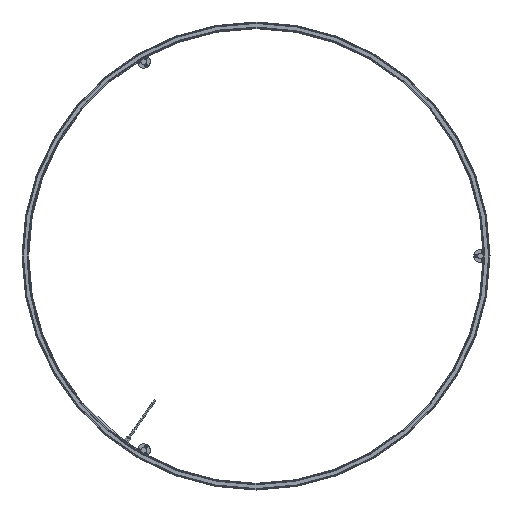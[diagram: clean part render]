
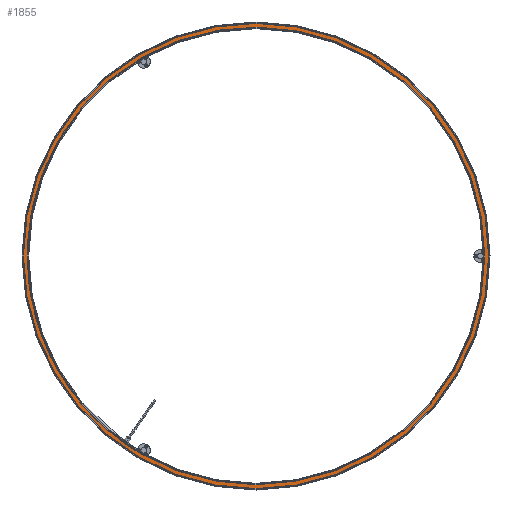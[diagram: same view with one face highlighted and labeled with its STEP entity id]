
A CAD part, front view. The second image highlights one B-rep face of the part: STEP entity #1855.
In plain terms, the highlighted planar face has unit normal (0, -1, 0) as drawn and (0, 1, 0) by its records, which use the part's own axes.
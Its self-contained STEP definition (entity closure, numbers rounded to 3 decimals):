
#502 = CARTESIAN_POINT ( 'NONE',  ( 0., -6.5, -795.6 ) ) ;
#1855 = ADVANCED_FACE ( 'NONE', ( #8960, #4046 ), #10092, .F. ) ;
#1957 = EDGE_CURVE ( 'NONE', #13708, #10837, #10485, .T. ) ;
#2489 = ORIENTED_EDGE ( 'NONE', *, *, #2740, .T. ) ;
#2700 = CARTESIAN_POINT ( 'NONE',  ( -781.4, -6.5, 0. ) ) ;
#2740 = EDGE_CURVE ( 'NONE', #10837, #13708, #2799, .T. ) ;
#2799 = CIRCLE ( 'NONE', #5606, 781.4 ) ;
#3209 = EDGE_CURVE ( 'NONE', #8154, #10682, #9217, .T. ) ;
#3499 = ORIENTED_EDGE ( 'NONE', *, *, #11401, .F. ) ;
#3530 = DIRECTION ( 'NONE',  ( 0., 0., -1. ) ) ;
#3848 = CARTESIAN_POINT ( 'NONE',  ( 0., -6.5, 0. ) ) ;
#4046 = FACE_BOUND ( 'NONE', #9135, .T. ) ;
#4801 = DIRECTION ( 'NONE',  ( 0., 0., -1. ) ) ;
#5371 = AXIS2_PLACEMENT_3D ( 'NONE', #3848, #10933, #4801 ) ;
#5606 = AXIS2_PLACEMENT_3D ( 'NONE', #13301, #15796, #3530 ) ;
#5866 = AXIS2_PLACEMENT_3D ( 'NONE', #13393, #8598, #13552 ) ;
#6141 = DIRECTION ( 'NONE',  ( 0., 0., -1. ) ) ;
#6364 = AXIS2_PLACEMENT_3D ( 'NONE', #2700, #13914, #6141 ) ;
#6427 = ORIENTED_EDGE ( 'NONE', *, *, #3209, .F. ) ;
#7104 = CARTESIAN_POINT ( 'NONE',  ( 0., -6.5, 0. ) ) ;
#8154 = VERTEX_POINT ( 'NONE', #502 ) ;
#8598 = DIRECTION ( 'NONE',  ( 0., -1., 0. ) ) ;
#8960 = FACE_OUTER_BOUND ( 'NONE', #10815, .T. ) ;
#9135 = EDGE_LOOP ( 'NONE', ( #10043, #2489 ) ) ;
#9217 = CIRCLE ( 'NONE', #5866, 795.6 ) ;
#10043 = ORIENTED_EDGE ( 'NONE', *, *, #1957, .T. ) ;
#10092 = PLANE ( 'NONE',  #6364 ) ;
#10485 = CIRCLE ( 'NONE', #11543, 781.4 ) ;
#10682 = VERTEX_POINT ( 'NONE', #11684 ) ;
#10815 = EDGE_LOOP ( 'NONE', ( #6427, #3499 ) ) ;
#10837 = VERTEX_POINT ( 'NONE', #14192 ) ;
#10933 = DIRECTION ( 'NONE',  ( 0., -1., 0. ) ) ;
#10976 = CARTESIAN_POINT ( 'NONE',  ( 0., -6.5, -781.4 ) ) ;
#11401 = EDGE_CURVE ( 'NONE', #10682, #8154, #12872, .T. ) ;
#11543 = AXIS2_PLACEMENT_3D ( 'NONE', #7104, #14310, #15843 ) ;
#11684 = CARTESIAN_POINT ( 'NONE',  ( 0., -6.5, 795.6 ) ) ;
#12872 = CIRCLE ( 'NONE', #5371, 795.6 ) ;
#13301 = CARTESIAN_POINT ( 'NONE',  ( 0., -6.5, 0. ) ) ;
#13393 = CARTESIAN_POINT ( 'NONE',  ( 0., -6.5, 0. ) ) ;
#13552 = DIRECTION ( 'NONE',  ( 0., 0., -1. ) ) ;
#13708 = VERTEX_POINT ( 'NONE', #10976 ) ;
#13914 = DIRECTION ( 'NONE',  ( 0., -1., 0. ) ) ;
#14192 = CARTESIAN_POINT ( 'NONE',  ( 0., -6.5, 781.4 ) ) ;
#14310 = DIRECTION ( 'NONE',  ( 0., -1., 0. ) ) ;
#15796 = DIRECTION ( 'NONE',  ( 0., -1., 0. ) ) ;
#15843 = DIRECTION ( 'NONE',  ( 0., 0., -1. ) ) ;
